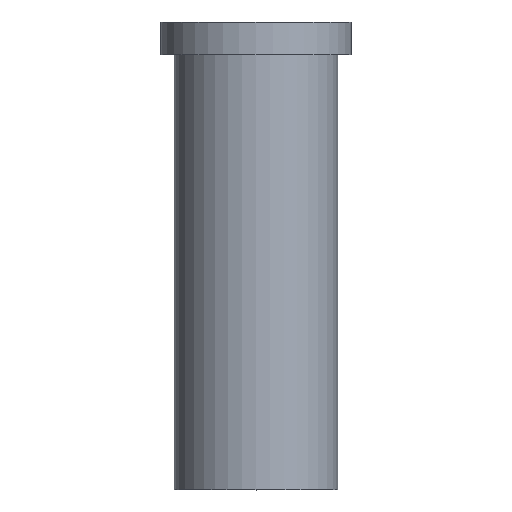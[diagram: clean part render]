
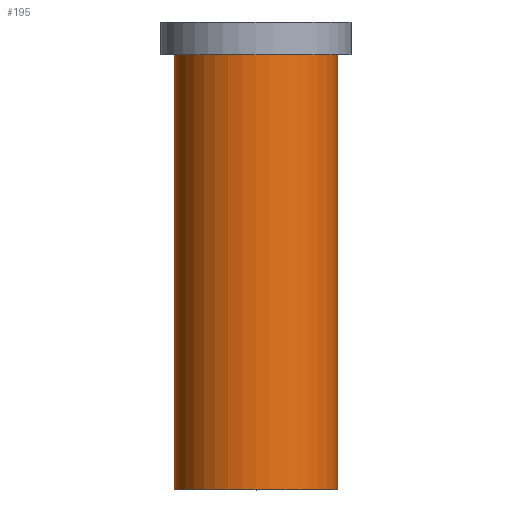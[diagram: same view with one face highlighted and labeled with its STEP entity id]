
A CAD part, top view. The second image highlights one B-rep face of the part: STEP entity #195.
In plain terms, the highlighted cylindrical face has radius 15 mm (diameter 30 mm), a full revolution.
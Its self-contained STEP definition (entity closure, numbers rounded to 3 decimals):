
#32=ORIENTED_EDGE('',*,*,#50,.T.);
#33=ORIENTED_EDGE('',*,*,#49,.F.);
#49=EDGE_CURVE('',#59,#59,#69,.T.);
#50=EDGE_CURVE('',#60,#60,#70,.T.);
#59=VERTEX_POINT('',#280);
#60=VERTEX_POINT('',#283);
#69=CIRCLE('',#213,15.);
#70=CIRCLE('',#215,15.);
#82=EDGE_LOOP('',(#32));
#83=EDGE_LOOP('',(#33));
#102=FACE_BOUND('',#82,.T.);
#103=FACE_BOUND('',#83,.T.);
#117=CYLINDRICAL_SURFACE('',#214,15.);
#195=ADVANCED_FACE('',(#102,#103),#117,.T.);
#213=AXIS2_PLACEMENT_3D('',#279,#241,#242);
#214=AXIS2_PLACEMENT_3D('',#281,#243,#244);
#215=AXIS2_PLACEMENT_3D('',#282,#245,#246);
#241=DIRECTION('',(0.,-1.,0.));
#242=DIRECTION('',(0.,0.,-1.));
#243=DIRECTION('',(0.,-1.,0.));
#244=DIRECTION('',(0.,0.,-1.));
#245=DIRECTION('',(0.,-1.,0.));
#246=DIRECTION('',(0.,0.,-1.));
#279=CARTESIAN_POINT('',(0.,0.,0.));
#280=CARTESIAN_POINT('',(0.,0.,-15.));
#281=CARTESIAN_POINT('',(0.,0.,0.));
#282=CARTESIAN_POINT('',(0.,80.,0.));
#283=CARTESIAN_POINT('',(0.,80.,-15.));
